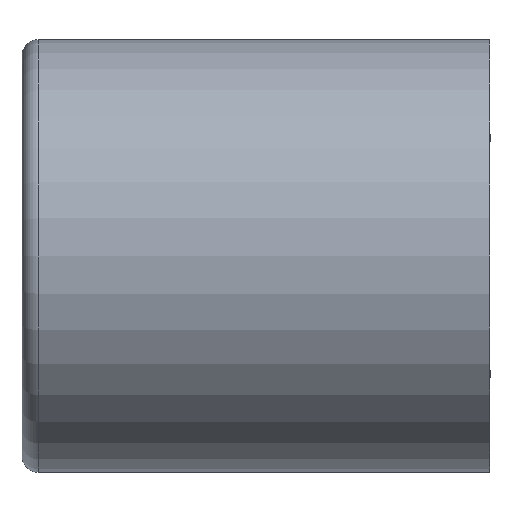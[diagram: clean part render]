
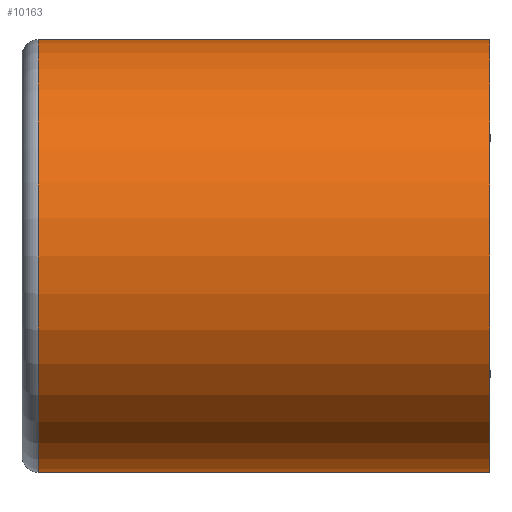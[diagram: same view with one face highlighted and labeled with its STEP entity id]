
A CAD part, front view. The second image highlights one B-rep face of the part: STEP entity #10163.
In plain terms, the highlighted cylindrical face has radius 18.5 mm (diameter 37 mm), a partial arc.
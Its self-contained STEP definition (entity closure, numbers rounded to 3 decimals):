
#719 = CIRCLE ( 'NONE', #8823, 18.5 ) ;
#765 = FACE_OUTER_BOUND ( 'NONE', #5678, .T. ) ;
#812 = CARTESIAN_POINT ( 'NONE',  ( -38.6, 0., 0. ) ) ;
#1384 = DIRECTION ( 'NONE',  ( 0., 0., 1. ) ) ;
#2043 = VERTEX_POINT ( 'NONE', #8428 ) ;
#2109 = VERTEX_POINT ( 'NONE', #2812 ) ;
#2283 = DIRECTION ( 'NONE',  ( -1., 0., 0. ) ) ;
#2450 = LINE ( 'NONE', #2632, #2700 ) ;
#2576 = ORIENTED_EDGE ( 'NONE', *, *, #9451, .T. ) ;
#2632 = CARTESIAN_POINT ( 'NONE',  ( -40., 0., -18.5 ) ) ;
#2700 = VECTOR ( 'NONE', #2283, 1000. ) ;
#2812 = CARTESIAN_POINT ( 'NONE',  ( 0., 0., -18.5 ) ) ;
#3021 = LINE ( 'NONE', #5181, #9877 ) ;
#3420 = DIRECTION ( 'NONE',  ( 0., 0., -1. ) ) ;
#3450 = DIRECTION ( 'NONE',  ( -1., 0., 0. ) ) ;
#3722 = EDGE_CURVE ( 'NONE', #6302, #5386, #3021, .T. ) ;
#3852 = CARTESIAN_POINT ( 'NONE',  ( -40., 0., 0. ) ) ;
#3964 = CYLINDRICAL_SURFACE ( 'NONE', #4827, 18.5 ) ;
#4827 = AXIS2_PLACEMENT_3D ( 'NONE', #3852, #6742, #1384 ) ;
#5181 = CARTESIAN_POINT ( 'NONE',  ( -40., 0., 18.5 ) ) ;
#5386 = VERTEX_POINT ( 'NONE', #6657 ) ;
#5538 = AXIS2_PLACEMENT_3D ( 'NONE', #812, #9235, #3420 ) ;
#5678 = EDGE_LOOP ( 'NONE', ( #6038, #6814, #8774, #2576 ) ) ;
#5688 = CARTESIAN_POINT ( 'NONE',  ( 0., 0., 0. ) ) ;
#6038 = ORIENTED_EDGE ( 'NONE', *, *, #9440, .F. ) ;
#6302 = VERTEX_POINT ( 'NONE', #9937 ) ;
#6657 = CARTESIAN_POINT ( 'NONE',  ( -38.6, 0., 18.5 ) ) ;
#6742 = DIRECTION ( 'NONE',  ( -1., 0., 0. ) ) ;
#6814 = ORIENTED_EDGE ( 'NONE', *, *, #7729, .T. ) ;
#7279 = DIRECTION ( 'NONE',  ( 0., 0., 1. ) ) ;
#7378 = DIRECTION ( 'NONE',  ( -1., 0., 0. ) ) ;
#7729 = EDGE_CURVE ( 'NONE', #2109, #6302, #719, .T. ) ;
#8428 = CARTESIAN_POINT ( 'NONE',  ( -38.6, 0., -18.5 ) ) ;
#8774 = ORIENTED_EDGE ( 'NONE', *, *, #3722, .T. ) ;
#8823 = AXIS2_PLACEMENT_3D ( 'NONE', #5688, #3450, #7279 ) ;
#9172 = CIRCLE ( 'NONE', #5538, 18.5 ) ;
#9235 = DIRECTION ( 'NONE',  ( 1., 0., 0. ) ) ;
#9440 = EDGE_CURVE ( 'NONE', #2109, #2043, #2450, .T. ) ;
#9451 = EDGE_CURVE ( 'NONE', #5386, #2043, #9172, .T. ) ;
#9877 = VECTOR ( 'NONE', #7378, 1000. ) ;
#9937 = CARTESIAN_POINT ( 'NONE',  ( 0., 0., 18.5 ) ) ;
#10163 = ADVANCED_FACE ( 'NONE', ( #765 ), #3964, .T. ) ;
